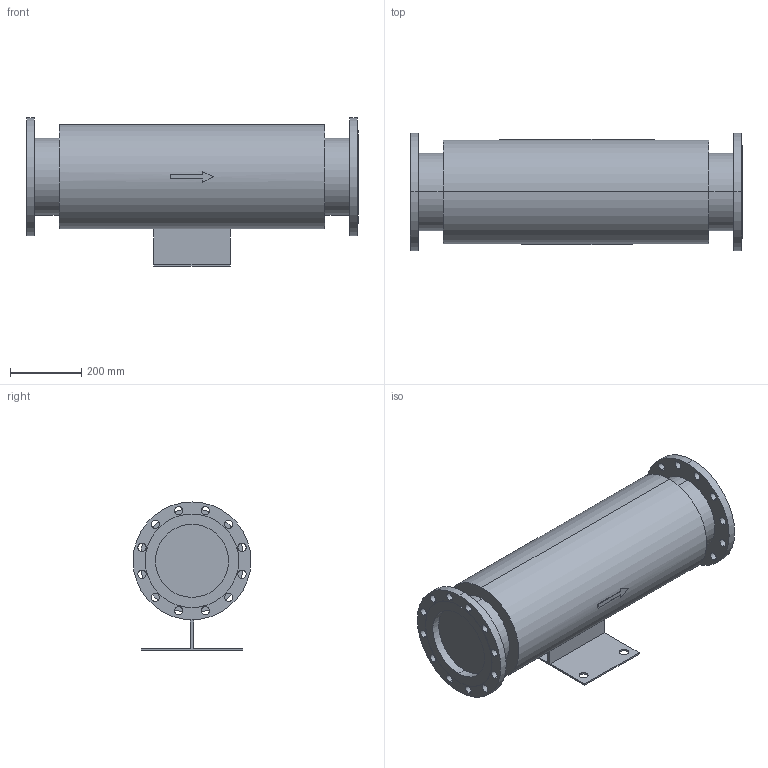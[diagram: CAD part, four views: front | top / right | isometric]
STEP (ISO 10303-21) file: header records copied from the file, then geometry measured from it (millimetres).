
FILE_DESCRIPTION( (''), '2;1');
FILE_NAME ('PC1027.12084.EB-2J　200A_4512.stp','2025-07-29T14:26:51',(''),(''),'spGate 20.6.3 (****-****-****-****)','','');
FILE_SCHEMA (('AUTOMOTIVE_DESIGN'));
Length unit declared in the file: millimetre
Bounding box: 930 x 330 x 415 mm (x, y, z)
Volume: 57419157.5 mm3; surface area: 1367810.1 mm2
Topology: 1 solids, 1 shells, 109 faces, 290 edges, 194 vertices
Faces by surface type: cylinder 74, plane 35
Entity records: 5777 total; most frequent: CARTESIAN_POINT 675, DIRECTION 588, ORIENTED_EDGE 580, COLOUR_RGB 400, PRESENTATION_STYLE_ASSIGNMENT 400, STYLED_ITEM 400, EDGE_CURVE 290, DRAUGHTING_PRE_DEFINED_CURVE_FONT 290
